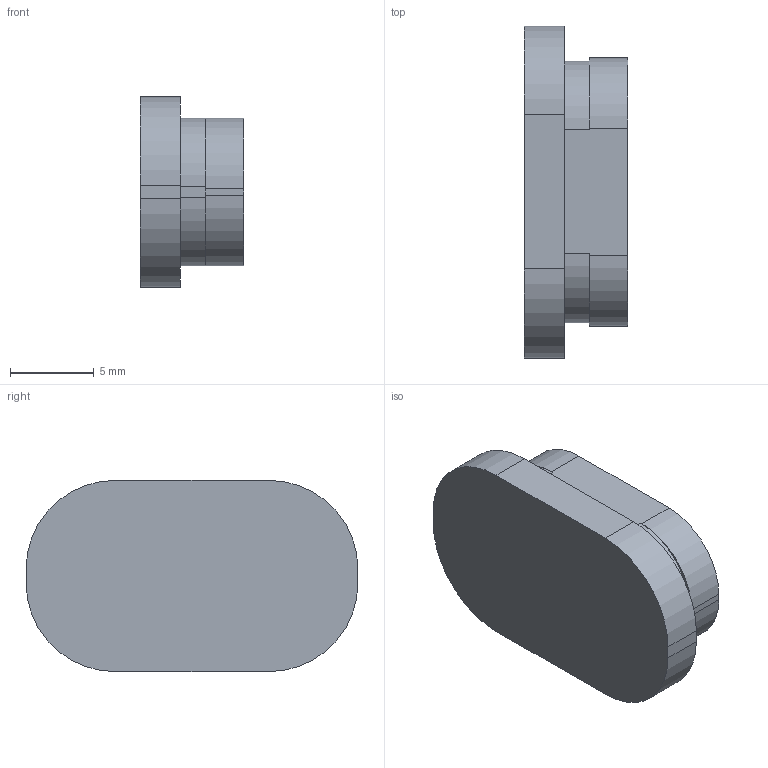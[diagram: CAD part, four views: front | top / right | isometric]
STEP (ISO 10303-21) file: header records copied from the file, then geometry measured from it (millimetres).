
FILE_DESCRIPTION(/* description */ (''),/* implementation_level */ '2;1');
FILE_NAME(/* name */ '05_Volume_Down.step',/* time_stamp */ '2026-09-16T19:15:03-07:00',/* author */ (''),/* organization */ (''),/* preprocessor_version */ 'ST-DEVELOPER v20.1',/* originating_system */ 'Autodesk Translation Framework v15.8.0.0',/* authorisation */ '');
FILE_SCHEMA (('AUTOMOTIVE_DESIGN { 1 0 10303 214 3 1 1 }'));
Length unit declared in the file: centimetre
Products named in the file (1): 2026-09-16-19-15-02-987
Bounding box: 6.2 x 19.8 x 11.4 mm (x, y, z)
Volume: 954.6 mm3; surface area: 701.9 mm2
Topology: 1 solids, 1 shells, 32 faces, 84 edges, 56 vertices
Faces by surface type: plane 20, cylinder 12
Entity records: 1032 total; most frequent: DIRECTION 174, CARTESIAN_POINT 173, ORIENTED_EDGE 168, EDGE_CURVE 84, LINE 60, VECTOR 60, AXIS2_PLACEMENT_3D 57, VERTEX_POINT 56
